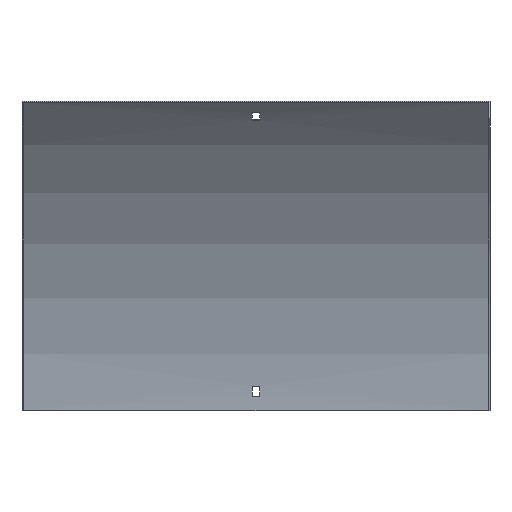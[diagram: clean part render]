
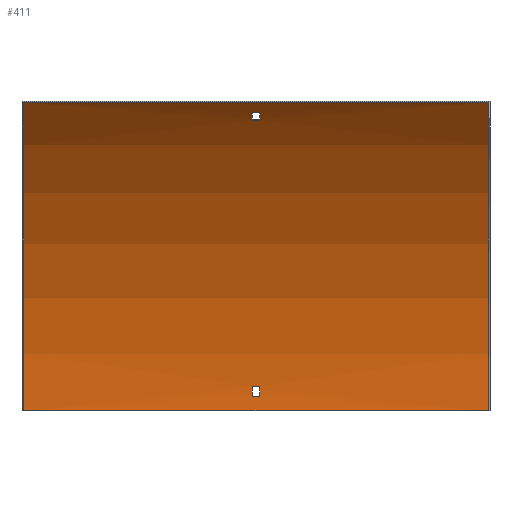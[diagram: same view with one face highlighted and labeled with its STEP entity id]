
A CAD part, front view. The second image highlights one B-rep face of the part: STEP entity #411.
In plain terms, the highlighted cylindrical face has radius 375 mm (diameter 750 mm), a partial arc.
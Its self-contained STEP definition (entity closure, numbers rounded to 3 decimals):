
#4 = DIRECTION ( 'NONE',  ( -1., 0., 0. ) ) ;
#8 = EDGE_CURVE ( 'NONE', #17, #256, #530, .T. ) ;
#11 = AXIS2_PLACEMENT_3D ( 'NONE', #455, #399, #269 ) ;
#15 = ORIENTED_EDGE ( 'NONE', *, *, #96, .F. ) ;
#17 = VERTEX_POINT ( 'NONE', #158 ) ;
#21 = ORIENTED_EDGE ( 'NONE', *, *, #8, .F. ) ;
#44 = EDGE_CURVE ( 'NONE', #586, #290, #147, .T. ) ;
#58 = DIRECTION ( 'NONE',  ( 0., 0., -1. ) ) ;
#59 = ORIENTED_EDGE ( 'NONE', *, *, #578, .F. ) ;
#60 = LINE ( 'NONE', #244, #463 ) ;
#63 = CARTESIAN_POINT ( 'NONE',  ( 200., -111.335, 265.165 ) ) ;
#69 = ORIENTED_EDGE ( 'NONE', *, *, #496, .T. ) ;
#78 = CARTESIAN_POINT ( 'NONE',  ( -3.25, -376.5, 0. ) ) ;
#84 = CARTESIAN_POINT ( 'NONE',  ( 3.25, -376.5, 0. ) ) ;
#85 = EDGE_LOOP ( 'NONE', ( #59, #21, #99, #500 ) ) ;
#92 = DIRECTION ( 'NONE',  ( -1., 0., 0. ) ) ;
#96 = EDGE_CURVE ( 'NONE', #436, #435, #275, .T. ) ;
#99 = ORIENTED_EDGE ( 'NONE', *, *, #232, .F. ) ;
#109 = EDGE_CURVE ( 'NONE', #586, #436, #274, .T. ) ;
#112 = ORIENTED_EDGE ( 'NONE', *, *, #389, .T. ) ;
#126 = VECTOR ( 'NONE', #379, 1000. ) ;
#133 = CARTESIAN_POINT ( 'NONE',  ( -3.25, -102.985, 256.544 ) ) ;
#135 = CARTESIAN_POINT ( 'NONE',  ( 201.5, -1.692, 12. ) ) ;
#136 = CARTESIAN_POINT ( 'NONE',  ( 201.5, -102.985, 256.544 ) ) ;
#147 = CIRCLE ( 'NONE', #580, 375. ) ;
#149 = AXIS2_PLACEMENT_3D ( 'NONE', #597, #225, #406 ) ;
#150 = EDGE_LOOP ( 'NONE', ( #579, #69, #346, #112 ) ) ;
#158 = CARTESIAN_POINT ( 'NONE',  ( 3.25, -2.088, 21. ) ) ;
#167 = ORIENTED_EDGE ( 'NONE', *, *, #467, .T. ) ;
#180 = CIRCLE ( 'NONE', #482, 375. ) ;
#191 = VECTOR ( 'NONE', #598, 1000. ) ;
#194 = DIRECTION ( 'NONE',  ( 1., 0., 0. ) ) ;
#197 = ORIENTED_EDGE ( 'NONE', *, *, #109, .F. ) ;
#212 = CARTESIAN_POINT ( 'NONE',  ( 3.25, -96.902, 249.9 ) ) ;
#225 = DIRECTION ( 'NONE',  ( -1., 0., 0. ) ) ;
#230 = CARTESIAN_POINT ( 'NONE',  ( 200., -1.5, 0. ) ) ;
#232 = EDGE_CURVE ( 'NONE', #394, #17, #247, .T. ) ;
#244 = CARTESIAN_POINT ( 'NONE',  ( 201.5, -96.902, 249.9 ) ) ;
#247 = CIRCLE ( 'NONE', #325, 375. ) ;
#254 = VERTEX_POINT ( 'NONE', #133 ) ;
#256 = VERTEX_POINT ( 'NONE', #478 ) ;
#263 = EDGE_CURVE ( 'NONE', #479, #394, #465, .T. ) ;
#268 = CIRCLE ( 'NONE', #355, 375. ) ;
#269 = DIRECTION ( 'NONE',  ( 0., 0., -1. ) ) ;
#270 = EDGE_CURVE ( 'NONE', #372, #472, #60, .T. ) ;
#274 = LINE ( 'NONE', #405, #546 ) ;
#275 = CIRCLE ( 'NONE', #11, 375. ) ;
#277 = CARTESIAN_POINT ( 'NONE',  ( 3.25, -376.5, 0. ) ) ;
#286 = CARTESIAN_POINT ( 'NONE',  ( -3.25, -376.5, 0. ) ) ;
#290 = VERTEX_POINT ( 'NONE', #63 ) ;
#299 = DIRECTION ( 'NONE',  ( 0., 0., -1. ) ) ;
#312 = VECTOR ( 'NONE', #194, 1000. ) ;
#318 = DIRECTION ( 'NONE',  ( 0., 0., 1. ) ) ;
#325 = AXIS2_PLACEMENT_3D ( 'NONE', #277, #329, #58 ) ;
#329 = DIRECTION ( 'NONE',  ( 1., 0., 0. ) ) ;
#343 = EDGE_LOOP ( 'NONE', ( #15, #197, #556, #167 ) ) ;
#346 = ORIENTED_EDGE ( 'NONE', *, *, #535, .T. ) ;
#348 = CARTESIAN_POINT ( 'NONE',  ( 200., -376.5, 0. ) ) ;
#355 = AXIS2_PLACEMENT_3D ( 'NONE', #286, #92, #604 ) ;
#358 = AXIS2_PLACEMENT_3D ( 'NONE', #84, #456, #318 ) ;
#365 = CYLINDRICAL_SURFACE ( 'NONE', #149, 375. ) ;
#372 = VERTEX_POINT ( 'NONE', #212 ) ;
#379 = DIRECTION ( 'NONE',  ( 1., 0., 0. ) ) ;
#382 = DIRECTION ( 'NONE',  ( 0., 0., -1. ) ) ;
#389 = EDGE_CURVE ( 'NONE', #438, #372, #493, .T. ) ;
#394 = VERTEX_POINT ( 'NONE', #501 ) ;
#399 = DIRECTION ( 'NONE',  ( 1., 0., 0. ) ) ;
#401 = CARTESIAN_POINT ( 'NONE',  ( -200., -111.335, 265.165 ) ) ;
#405 = CARTESIAN_POINT ( 'NONE',  ( 200., -1.5, 0. ) ) ;
#406 = DIRECTION ( 'NONE',  ( 0., 0., 1. ) ) ;
#407 = DIRECTION ( 'NONE',  ( -1., 0., 0. ) ) ;
#409 = CARTESIAN_POINT ( 'NONE',  ( 200., -111.335, 265.165 ) ) ;
#411 = ADVANCED_FACE ( 'NONE', ( #448, #594, #544 ), #365, .F. ) ;
#416 = VECTOR ( 'NONE', #540, 1000. ) ;
#418 = LINE ( 'NONE', #136, #126 ) ;
#431 = DIRECTION ( 'NONE',  ( 1., 0., 0. ) ) ;
#435 = VERTEX_POINT ( 'NONE', #401 ) ;
#436 = VERTEX_POINT ( 'NONE', #591 ) ;
#437 = CARTESIAN_POINT ( 'NONE',  ( -3.25, -96.902, 249.9 ) ) ;
#438 = VERTEX_POINT ( 'NONE', #583 ) ;
#448 = FACE_BOUND ( 'NONE', #85, .T. ) ;
#455 = CARTESIAN_POINT ( 'NONE',  ( -200., -376.5, 0. ) ) ;
#456 = DIRECTION ( 'NONE',  ( -1., 0., 0. ) ) ;
#463 = VECTOR ( 'NONE', #4, 1000. ) ;
#465 = LINE ( 'NONE', #135, #312 ) ;
#467 = EDGE_CURVE ( 'NONE', #290, #435, #506, .T. ) ;
#472 = VERTEX_POINT ( 'NONE', #437 ) ;
#478 = CARTESIAN_POINT ( 'NONE',  ( -3.25, -2.088, 21. ) ) ;
#479 = VERTEX_POINT ( 'NONE', #488 ) ;
#482 = AXIS2_PLACEMENT_3D ( 'NONE', #78, #554, #382 ) ;
#488 = CARTESIAN_POINT ( 'NONE',  ( -3.25, -1.692, 12. ) ) ;
#493 = CIRCLE ( 'NONE', #358, 375. ) ;
#496 = EDGE_CURVE ( 'NONE', #472, #254, #180, .T. ) ;
#500 = ORIENTED_EDGE ( 'NONE', *, *, #263, .F. ) ;
#501 = CARTESIAN_POINT ( 'NONE',  ( 3.25, -1.692, 12. ) ) ;
#506 = LINE ( 'NONE', #409, #191 ) ;
#530 = LINE ( 'NONE', #537, #416 ) ;
#535 = EDGE_CURVE ( 'NONE', #254, #438, #418, .T. ) ;
#537 = CARTESIAN_POINT ( 'NONE',  ( 201.5, -2.088, 21. ) ) ;
#540 = DIRECTION ( 'NONE',  ( -1., 0., 0. ) ) ;
#544 = FACE_BOUND ( 'NONE', #150, .T. ) ;
#546 = VECTOR ( 'NONE', #407, 1000. ) ;
#554 = DIRECTION ( 'NONE',  ( 1., 0., 0. ) ) ;
#556 = ORIENTED_EDGE ( 'NONE', *, *, #44, .T. ) ;
#578 = EDGE_CURVE ( 'NONE', #256, #479, #268, .T. ) ;
#579 = ORIENTED_EDGE ( 'NONE', *, *, #270, .T. ) ;
#580 = AXIS2_PLACEMENT_3D ( 'NONE', #348, #431, #299 ) ;
#583 = CARTESIAN_POINT ( 'NONE',  ( 3.25, -102.985, 256.544 ) ) ;
#586 = VERTEX_POINT ( 'NONE', #230 ) ;
#591 = CARTESIAN_POINT ( 'NONE',  ( -200., -1.5, 0. ) ) ;
#594 = FACE_OUTER_BOUND ( 'NONE', #343, .T. ) ;
#597 = CARTESIAN_POINT ( 'NONE',  ( 201.5, -376.5, 0. ) ) ;
#598 = DIRECTION ( 'NONE',  ( -1., 0., 0. ) ) ;
#604 = DIRECTION ( 'NONE',  ( 0., 0., 1. ) ) ;
